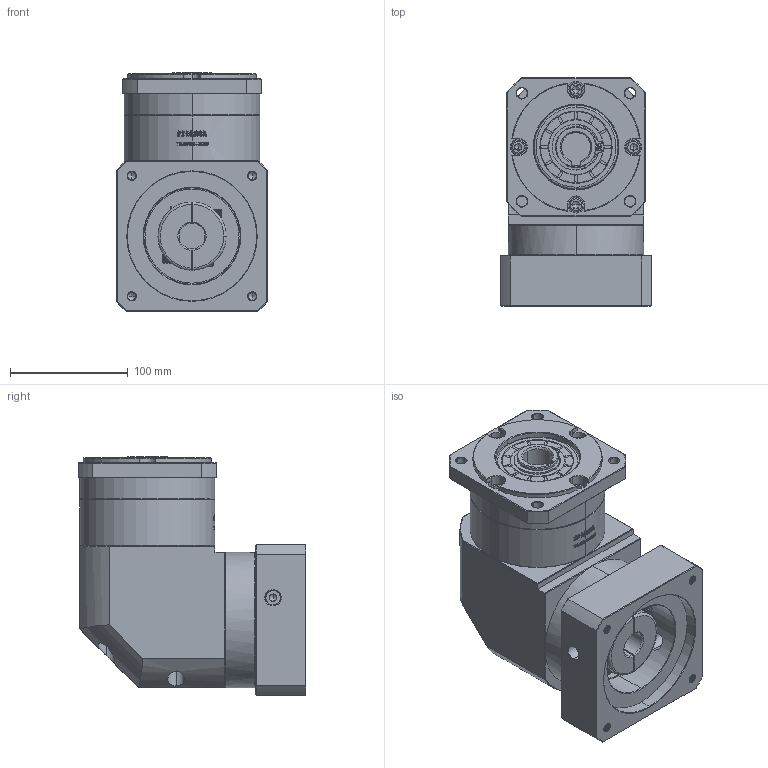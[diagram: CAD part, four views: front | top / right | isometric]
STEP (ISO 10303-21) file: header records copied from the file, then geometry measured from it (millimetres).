
FILE_DESCRIPTION (( 'STEP AP214' ), '1' );
FILE_NAME ('ZFR120A-K25-L1-22-110-145-M8.step', '2023-03-08T08:29:48', ( '' ), ( '' ), 'SwSTEP 2.0', 'SolidWorks 2016', '' );
FILE_SCHEMA (( 'AUTOMOTIVE_DESIGN' ));
Length unit declared in the file: millimetre
Products named in the file (1): ZFR120A-K25-L1-22-110-145-M8
Bounding box: 128 x 193.9 x 203 mm (x, y, z)
Volume: 2932865.2 mm3; surface area: 249352.9 mm2
Topology: 6 solids, 6 shells, 2815 faces, 7525 edges, 4855 vertices
Faces by surface type: plane 1477, bspline 598, cylinder 401, cone 331, torus 8
Entity records: 152463 total; most frequent: CARTESIAN_POINT 56864, ORIENTED_EDGE 14994, DIRECTION 10924, EDGE_CURVE 7497, VERTEX_POINT 4855, VECTOR 4696, LINE 4696, AXIS2_PLACEMENT_3D 3114
